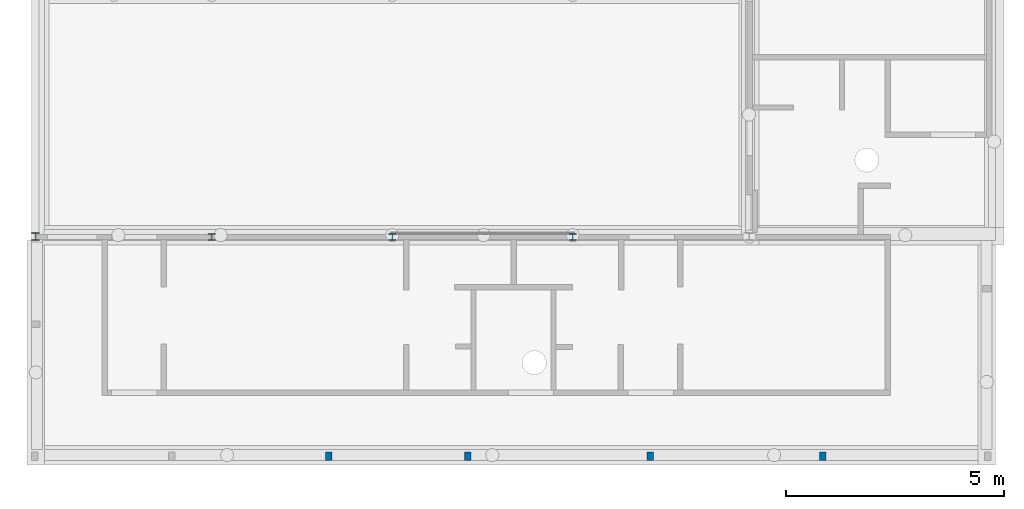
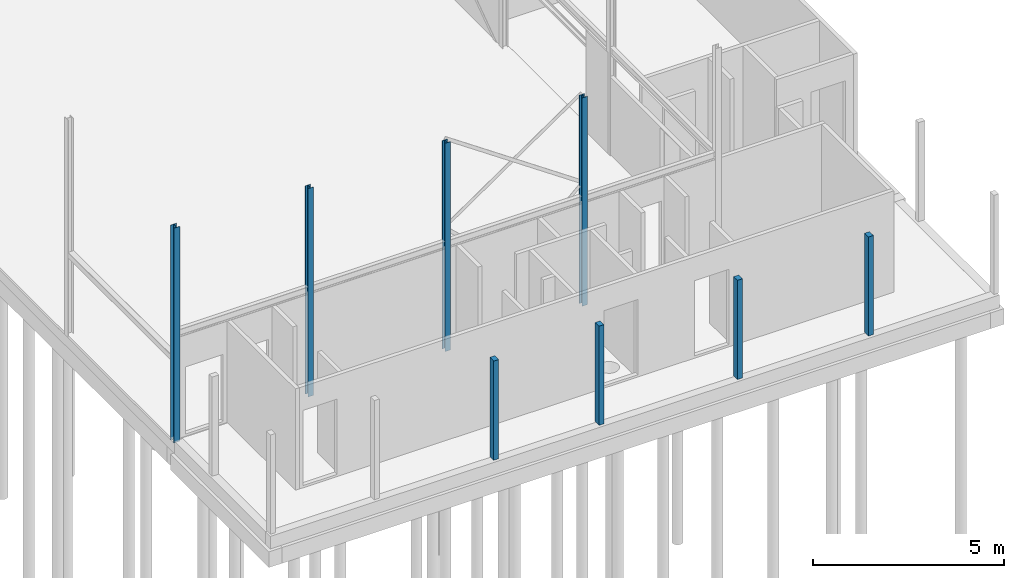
# One storey, part 3 of 17: 8 columns.
"""IFC2X3 building model written with IfcOpenShell, lengths in millimetres."""

from ifc_helpers import new_model, entity, si_unit, converted_unit, derived_unit, direction, frame, frame_2d, origin, origin_2d_with_axis, place, context, subcontext, project, spatial, polyline, circle_curve, parameter, trimmed, segment, composite_curve, rectangle, outline, extrude, source, transform, mapped, material, type_object, type_shapes, element, save


model = new_model("IFC2X3")

# Units and contexts
model_context = context("Model", 3, precision=0.01, world=origin(), true_north=direction((6.123031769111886e-17, 1.0)))
plan_context = context("Plan", 3, precision=0.01, world=origin(), true_north=direction((6.123031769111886e-17, 1.0)))
body_context = subcontext(model_context, "Body", "Model", "MODEL_VIEW")
ifc_project = project(units=[si_unit("LENGTHUNIT", "METRE", prefix="MILLI"), si_unit("AREAUNIT", "SQUARE_METRE"), si_unit("VOLUMEUNIT", "CUBIC_METRE"), converted_unit("PLANEANGLEUNIT", "DEGREE", entity("IfcPlaneAngleMeasure", 0.017453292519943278), si_unit("PLANEANGLEUNIT", "RADIAN"), dimensions=[0, 0, 0, 0, 0, 0, 0]), si_unit("MASSUNIT", "GRAM", prefix="KILO"), derived_unit("MASSDENSITYUNIT", [(si_unit("MASSUNIT", "GRAM", prefix="KILO"), 1), (si_unit("LENGTHUNIT", "METRE"), -3)]), derived_unit("IONCONCENTRATIONUNIT", [(si_unit("MASSUNIT", "GRAM", prefix="KILO"), 1), (si_unit("LENGTHUNIT", "METRE"), -3)]), derived_unit("MOMENTOFINERTIAUNIT", [(si_unit("LENGTHUNIT", "METRE"), 4)]), si_unit("TIMEUNIT", "SECOND"), si_unit("FREQUENCYUNIT", "HERTZ"), si_unit("THERMODYNAMICTEMPERATUREUNIT", "DEGREE_CELSIUS"), derived_unit("THERMALTRANSMITTANCEUNIT", [(si_unit("MASSUNIT", "GRAM", prefix="KILO"), 1), (si_unit("THERMODYNAMICTEMPERATUREUNIT", "KELVIN"), -1), (si_unit("TIMEUNIT", "SECOND"), -3)]), derived_unit("THERMALCONDUCTANCEUNIT", [(si_unit("MASSUNIT", "GRAM", prefix="KILO"), 1), (si_unit("THERMODYNAMICTEMPERATUREUNIT", "KELVIN"), -1), (si_unit("TIMEUNIT", "SECOND"), -3), (si_unit("LENGTHUNIT", "METRE"), 1)]), derived_unit("VOLUMETRICFLOWRATEUNIT", [(si_unit("LENGTHUNIT", "METRE", prefix="DECI"), 3), (si_unit("TIMEUNIT", "SECOND"), -1)]), derived_unit("MASSFLOWRATEUNIT", [(si_unit("MASSUNIT", "GRAM", prefix="KILO"), 1), (si_unit("TIMEUNIT", "SECOND"), -1)]), derived_unit("ROTATIONALFREQUENCYUNIT", [(si_unit("TIMEUNIT", "SECOND"), -1)]), si_unit("ELECTRICCURRENTUNIT", "AMPERE"), si_unit("ELECTRICVOLTAGEUNIT", "VOLT"), si_unit("POWERUNIT", "WATT"), si_unit("FORCEUNIT", "NEWTON", prefix="KILO"), si_unit("ILLUMINANCEUNIT", "LUX"), si_unit("LUMINOUSFLUXUNIT", "LUMEN"), si_unit("LUMINOUSINTENSITYUNIT", "CANDELA"), si_unit("ENERGYUNIT", "JOULE"), derived_unit("USERDEFINED", [(si_unit("MASSUNIT", "GRAM", prefix="KILO"), -1), (si_unit("LENGTHUNIT", "METRE"), -2), (si_unit("TIMEUNIT", "SECOND"), 3), (si_unit("LUMINOUSFLUXUNIT", "LUMEN"), 1)]), derived_unit("USERDEFINED", [(si_unit("MASSUNIT", "GRAM", prefix="KILO"), 1), (si_unit("TIMEUNIT", "SECOND"), -3), (si_unit("LENGTHUNIT", "METRE"), 3), (si_unit("ELECTRICCURRENTUNIT", "AMPERE"), -2)]), derived_unit("SOUNDPOWERUNIT", [(si_unit("MASSUNIT", "GRAM", prefix="KILO"), 1), (si_unit("TIMEUNIT", "SECOND"), -3), (si_unit("LENGTHUNIT", "METRE"), 2)]), derived_unit("SOUNDPRESSUREUNIT", [(si_unit("MASSUNIT", "GRAM", prefix="KILO"), 1), (si_unit("LENGTHUNIT", "METRE"), -1), (si_unit("TIMEUNIT", "SECOND"), -2)]), derived_unit("LINEARVELOCITYUNIT", [(si_unit("LENGTHUNIT", "METRE"), 1), (si_unit("TIMEUNIT", "SECOND"), -1)]), si_unit("PRESSUREUNIT", "PASCAL"), derived_unit("USERDEFINED", [(si_unit("MASSUNIT", "GRAM", prefix="KILO"), 1), (si_unit("LENGTHUNIT", "METRE"), -2), (si_unit("TIMEUNIT", "SECOND"), -2)]), derived_unit("LINEARFORCEUNIT", [(si_unit("MASSUNIT", "GRAM", prefix="KILO"), 1), (si_unit("TIMEUNIT", "SECOND"), -2)]), derived_unit("PLANARFORCEUNIT", [(si_unit("MASSUNIT", "GRAM", prefix="KILO"), 1), (si_unit("LENGTHUNIT", "METRE"), -1), (si_unit("TIMEUNIT", "SECOND"), -2)]), derived_unit("SPECIFICHEATCAPACITYUNIT", [(si_unit("THERMODYNAMICTEMPERATUREUNIT", "KELVIN"), -1), (si_unit("LENGTHUNIT", "METRE"), 2), (si_unit("TIMEUNIT", "SECOND"), -2)]), derived_unit("HEATFLUXDENSITYUNIT", [(si_unit("MASSUNIT", "GRAM", prefix="KILO"), 1), (si_unit("TIMEUNIT", "SECOND"), -3)]), derived_unit("HEATINGVALUEUNIT", [(si_unit("LENGTHUNIT", "METRE"), 2), (si_unit("TIMEUNIT", "SECOND"), -2)]), derived_unit("VAPORPERMEABILITYUNIT", [(si_unit("LENGTHUNIT", "METRE"), -1), (si_unit("TIMEUNIT", "SECOND"), 1)]), derived_unit("DYNAMICVISCOSITYUNIT", [(si_unit("MASSUNIT", "GRAM", prefix="KILO"), 1), (si_unit("TIMEUNIT", "SECOND"), -1), (si_unit("LENGTHUNIT", "METRE"), -1)]), derived_unit("THERMALEXPANSIONCOEFFICIENTUNIT", [(si_unit("THERMODYNAMICTEMPERATUREUNIT", "KELVIN"), -1)]), derived_unit("MODULUSOFELASTICITYUNIT", [(si_unit("MASSUNIT", "GRAM", prefix="KILO"), 1), (si_unit("LENGTHUNIT", "METRE"), -1), (si_unit("TIMEUNIT", "SECOND"), -2)]), derived_unit("ISOTHERMALMOISTURECAPACITYUNIT", [(si_unit("MASSUNIT", "GRAM", prefix="KILO"), -1), (si_unit("LENGTHUNIT", "METRE"), 3)]), derived_unit("MOISTUREDIFFUSIVITYUNIT", [(si_unit("TIMEUNIT", "SECOND"), -1), (si_unit("LENGTHUNIT", "METRE"), 2)]), derived_unit("MASSPERLENGTHUNIT", [(si_unit("MASSUNIT", "GRAM", prefix="KILO"), 1), (si_unit("LENGTHUNIT", "METRE"), -1)]), derived_unit("THERMALRESISTANCEUNIT", [(si_unit("MASSUNIT", "GRAM", prefix="KILO"), -1), (si_unit("TIMEUNIT", "SECOND"), 3), (si_unit("THERMODYNAMICTEMPERATUREUNIT", "KELVIN"), 1)]), derived_unit("ACCELERATIONUNIT", [(si_unit("LENGTHUNIT", "METRE"), 1), (si_unit("TIMEUNIT", "SECOND"), -2)]), derived_unit("ANGULARVELOCITYUNIT", [(si_unit("TIMEUNIT", "SECOND"), -1), (si_unit("PLANEANGLEUNIT", "RADIAN"), 1)]), derived_unit("LINEARSTIFFNESSUNIT", [(si_unit("MASSUNIT", "GRAM", prefix="KILO"), 1), (si_unit("TIMEUNIT", "SECOND"), -2)]), derived_unit("WARPINGCONSTANTUNIT", [(si_unit("LENGTHUNIT", "METRE"), 6)]), derived_unit("LINEARMOMENTUNIT", [(si_unit("MASSUNIT", "GRAM", prefix="KILO"), 1), (si_unit("LENGTHUNIT", "METRE"), 1), (si_unit("TIMEUNIT", "SECOND"), -2)]), derived_unit("TORQUEUNIT", [(si_unit("MASSUNIT", "GRAM", prefix="KILO"), 1), (si_unit("LENGTHUNIT", "METRE"), 2), (si_unit("TIMEUNIT", "SECOND"), -2)])], contexts=[model_context, plan_context])

# Site, building, storey
site_placement = place(None, origin())
site = spatial("IfcSite", under=ifc_project, at=site_placement, Name="Default", CompositionType="ELEMENT")
building_placement = place(site_placement, origin())
building = spatial("IfcBuilding", under=site, at=building_placement, CompositionType="ELEMENT")
storey_placement = place(building_placement, origin())
storey = spatial("IfcBuildingStorey", under=building, at=storey_placement, Name="00 begane grond", CompositionType="ELEMENT", Elevation=0.0)

# Columns
ifc_material_1 = material(Name="constructiehout C24")
column_type_1 = type_object("IfcColumnType", Name="28_SCO_TLB_houten kolom rechthoekig_dw:150x200 (C24)", PredefinedType="COLUMN", material=ifc_material_1)
shared_shape_1 = source(origin(), body_context, "Body", "SweptSolid", [
    extrude(rectangle(XDim=150.0, YDim=199.99999999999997, at=origin_2d_with_axis()), frame((0.0, 0.0, 0.0), z_axis=(0.0, 0.0, 1.0), x_axis=(-1.0, 0.0, 0.0)), (0.0, 0.0, 1.0), 3160.0000000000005),
])
type_shapes(column_type_1, [shared_shape_1])
for number, where, z_axis, x_axis, name in (
    (1, (52176.192937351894, 11312.670340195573, 0.0), (0.0, 0.0, 1.0), (-1.0, 0.0, 0.0), "28_SCO_TLB_houten kolom rechthoekig_dw:150x200 (C24)"),
    (2, (48226.19293735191, 11312.670340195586, 0.0), (0.0, 0.0, 1.0), (-1.0, 0.0, 0.0), "28_SCO_TLB_houten kolom rechthoekig_dw:150x200 (C24)"),
    (3, (44051.19288817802, 11312.6703401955, 0.0), (0.0, 0.0, 1.0), (-1.0, 0.0, 0.0), "28_SCO_TLB_houten kolom rechthoekig_dw:150x200 (C24)"),
    (4, (40876.1929373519, 11312.670340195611, 0.0), (0.0, 0.0, 1.0), (-1.0, 0.0, 0.0), "28_SCO_TLB_houten kolom rechthoekig_dw:150x200 (C24)"),
):
    element("IfcColumn", number, at=place(storey_placement, frame(where, z_axis=z_axis, x_axis=x_axis)), inside=storey, type_object=column_type_1, material=ifc_material_1, Name=name, ObjectType="28_SCO_TLB_houten kolom rechthoekig_dw:150x200 (C24)", context=body_context, shape_type="MappedRepresentation", body=[
        mapped(shared_shape_1, transform((0.0, 0.0, 0.0), scale=1.0)),
    ])
ifc_material_2 = material(Name="constructiestaal S235")
column_type_2 = type_object("IfcColumnType", Name="28_SCO_TLB_HEA kolom_dw:HE160A (S235)", PredefinedType="COLUMN", material=ifc_material_2)
shared_shape_2 = source(origin(), body_context, "Body", "SweptSolid", [
    extrude(outline(composite_curve([segment(polyline([(-80.0, -67.0), (-80.0, -76.0)]), True, "CONTINUOUS"), segment(polyline([(-80.0, -76.0), (80.0, -76.0)]), True, "CONTINUOUS"), segment(polyline([(80.0, -76.0), (80.0, -67.0)]), True, "CONTINUOUS"), segment(polyline([(80.0, -67.0), (18.0, -67.0)]), True, "CONTINUOUS"), segment(trimmed(circle_curve(frame_2d((18.0, -52.0), x_axis=(1.0, 0.0)), 15.0), [parameter(180.00000000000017)], [parameter(269.9999999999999)], True, "PARAMETER"), False, "CONTINUOUS"), segment(polyline([(3.0, -52.0), (3.0, 52.0)]), True, "CONTINUOUS"), segment(trimmed(circle_curve(frame_2d((18.0, 52.0), x_axis=(1.0, 0.0)), 15.0), [parameter(90.00000000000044)], [parameter(180.00000000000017)], True, "PARAMETER"), False, "CONTINUOUS"), segment(polyline([(18.0, 67.0), (80.0, 67.0)]), True, "CONTINUOUS"), segment(polyline([(80.0, 67.0), (80.0, 76.0)]), True, "CONTINUOUS"), segment(polyline([(80.0, 76.0), (-80.0, 76.0)]), True, "CONTINUOUS"), segment(polyline([(-80.0, 76.0), (-80.0, 67.0)]), True, "CONTINUOUS"), segment(polyline([(-80.0, 67.0), (-18.0, 67.0)]), True, "CONTINUOUS"), segment(trimmed(circle_curve(frame_2d((-18.0, 52.0), x_axis=(1.0, 0.0)), 15.0), [parameter(359.99999999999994)], [parameter(90.00000000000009)], True, "PARAMETER"), False, "CONTINUOUS"), segment(polyline([(-3.0, 52.0), (-3.0, -52.0)]), True, "CONTINUOUS"), segment(trimmed(circle_curve(frame_2d((-18.0, -52.0), x_axis=(1.0, 0.0)), 15.0), [parameter(269.9999999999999)], [parameter(0.0)], True, "PARAMETER"), False, "CONTINUOUS"), segment(polyline([(-18.0, -67.0), (-80.0, -67.0)]), True, "CONTINUOUS")], self_intersect=False)), frame((0.0, 0.0, -100.0), z_axis=(0.0, 0.0, -1.0), x_axis=(-1.0, 0.0, 0.0)), (0.0, 0.0, -1.0), 6640.000000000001),
])
type_shapes(column_type_2, [shared_shape_2])
for number, where in (
    (5, (46456.19293735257, 16328.670463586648, 0.0)),
    (6, (42326.19293735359, 16328.67046358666, 0.0)),
    (7, (38196.192937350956, 16328.670463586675, 0.0)),
):
    element("IfcColumn", number, at=place(storey_placement, frame(where)), inside=storey, type_object=column_type_2, material=ifc_material_2, Name="28_SCO_TLB_HEA kolom_dw:HE160A (S235)", ObjectType="28_SCO_TLB_HEA kolom_dw:HE160A (S235)", context=body_context, shape_type="MappedRepresentation", body=[
        mapped(shared_shape_2, transform((0.0, 0.0, 0.0), scale=1.0)),
    ])
column_type_3 = type_object("IfcColumnType", Name="28_SCO_TLB_HEA kolom_dw:HE180A (S235)", PredefinedType="COLUMN", material=ifc_material_2)
shared_shape_3 = source(origin(), body_context, "Body", "SweptSolid", [
    extrude(outline(composite_curve([segment(polyline([(-90.0, -76.0), (-90.0, -85.4999999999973)]), True, "CONTINUOUS"), segment(polyline([(-90.0, -85.4999999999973), (90.0, -85.49999999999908)]), True, "CONTINUOUS"), segment(polyline([(90.0, -85.49999999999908), (90.0, -76.0)]), True, "CONTINUOUS"), segment(polyline([(90.0, -76.0), (18.0, -76.0)]), True, "CONTINUOUS"), segment(trimmed(circle_curve(frame_2d((18.0, -61.0), x_axis=(1.0, 0.0)), 15.0), [parameter(180.00000000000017)], [parameter(269.9999999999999)], True, "PARAMETER"), False, "CONTINUOUS"), segment(polyline([(3.0, -61.0), (3.0, 61.0)]), True, "CONTINUOUS"), segment(trimmed(circle_curve(frame_2d((18.0, 61.0), x_axis=(1.0, 0.0)), 15.0), [parameter(90.00000000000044)], [parameter(180.0000000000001)], True, "PARAMETER"), False, "CONTINUOUS"), segment(polyline([(18.0, 76.0), (90.0, 76.0)]), True, "CONTINUOUS"), segment(polyline([(90.0, 76.0), (90.0, 85.49999999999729)]), True, "CONTINUOUS"), segment(polyline([(90.0, 85.49999999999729), (-90.0, 85.49999999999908)]), True, "CONTINUOUS"), segment(polyline([(-90.0, 85.49999999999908), (-90.0, 76.0)]), True, "CONTINUOUS"), segment(polyline([(-90.0, 76.0), (-18.0, 76.0)]), True, "CONTINUOUS"), segment(trimmed(circle_curve(frame_2d((-18.0, 61.0), x_axis=(1.0, 0.0)), 15.0), [parameter(0.0)], [parameter(90.00000000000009)], True, "PARAMETER"), False, "CONTINUOUS"), segment(polyline([(-3.0, 61.0), (-3.0, -61.0)]), True, "CONTINUOUS"), segment(trimmed(circle_curve(frame_2d((-18.0, -61.0), x_axis=(1.0, 0.0)), 15.0), [parameter(269.9999999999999)], [parameter(0.0)], True, "PARAMETER"), False, "CONTINUOUS"), segment(polyline([(-18.0, -76.0), (-90.0, -76.0)]), True, "CONTINUOUS")], self_intersect=False)), frame((34156.19293735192, 16338.170463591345, -150.0), z_axis=(0.0, 0.0, -1.0), x_axis=(-1.0, 0.0, 0.0)), (0.0, 0.0, -1.0), 6846.999999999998),
])
type_shapes(column_type_3, [shared_shape_3])
column_placement = place(storey_placement, origin())
element("IfcColumn", 8, at=column_placement, inside=storey, type_object=column_type_3, material=ifc_material_2, Name="28_SCO_TLB_HEA kolom_dw:HE180A (S235)", ObjectType="28_SCO_TLB_HEA kolom_dw:HE180A (S235)", context=body_context, shape_type="MappedRepresentation", body=[
    mapped(shared_shape_3, transform((0.0, 0.0, 0.0), scale=1.0)),
])

save(model, "model.ifc")
